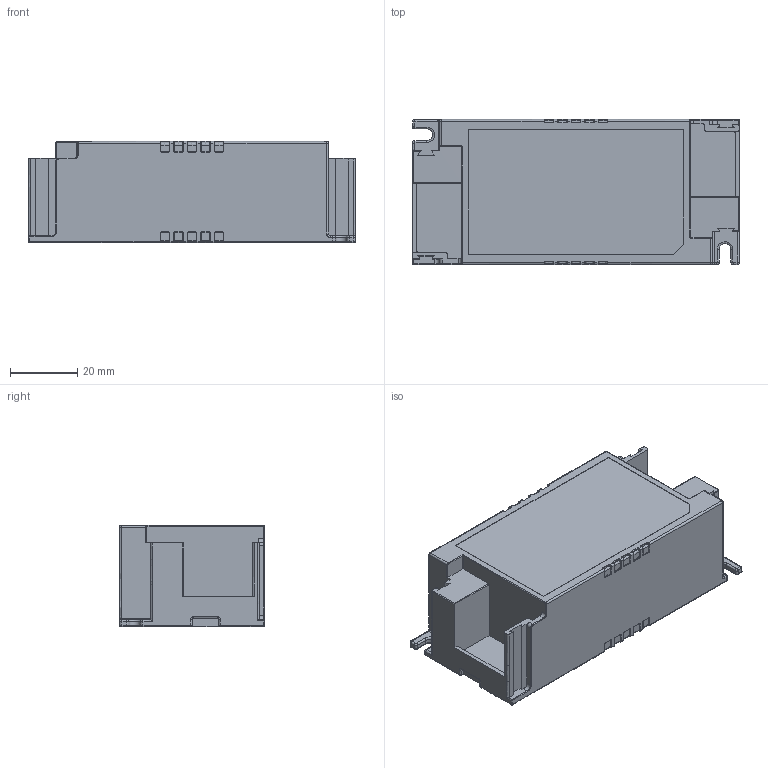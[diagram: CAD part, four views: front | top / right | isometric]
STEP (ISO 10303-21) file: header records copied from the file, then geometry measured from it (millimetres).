
FILE_DESCRIPTION(/* description */ (''),/* implementation_level */ '2;1');
FILE_NAME(/* name */ 'MINI（~4',/* time_stamp */ '2023-07-04T15:33:58+08:00',/* author */ (''),/* organization */ (''),/* preprocessor_version */ 'ST-DEVELOPER v16.5',/* originating_system */ '',/* authorisation */ '');
FILE_SCHEMA (('AUTOMOTIVE_DESIGN'));
Length unit declared in the file: millimetre
Products named in the file (1): Document
Bounding box: 97 x 43.01 x 30 mm (x, y, z)
Volume: 103297.9 mm3; surface area: 18321.8 mm2
Topology: 1 solids, 1 shells, 688 faces, 1692 edges, 1007 vertices
Faces by surface type: bspline 507, plane 181
Entity records: 40884 total; most frequent: CARTESIAN_POINT 30118, ORIENTED_EDGE 3384, EDGE_CURVE 1692, B_SPLINE_CURVE_WITH_KNOTS 1606, VERTEX_POINT 1007, EDGE_LOOP 689, ADVANCED_FACE 688, FACE_OUTER_BOUND 688
